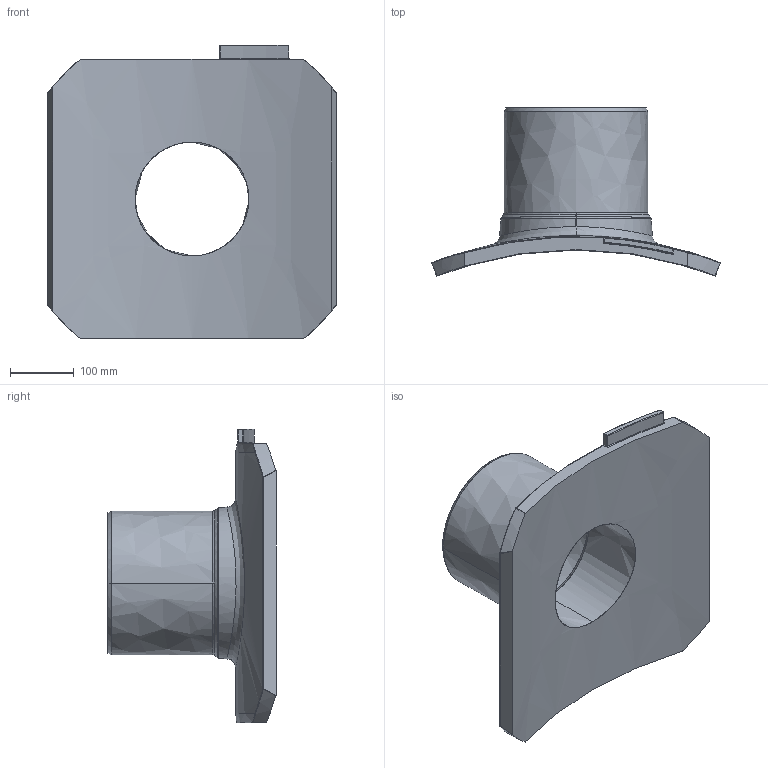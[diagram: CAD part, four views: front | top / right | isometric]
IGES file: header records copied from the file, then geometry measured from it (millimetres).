
Start section:  PTC IGES file: sa-uni_d1200_225-01.igs
Global section: file name: sa-uni_d1200_225-01.igs; native system: Creo Parametric by PTC Inc.; preprocessor: 2022124; author: mikulicp; organization: Unknown; date: 20240701.110120; units: millimetre
Bounding box: 451.19 x 262.97 x 460 mm (x, y, z)
Surface area: 644638.5 mm2 (no closed solid volume)
Topology: 0 solids, 0 shells, 220 faces, 1094 edges, 1094 vertices
Faces by surface type: bspline 220
